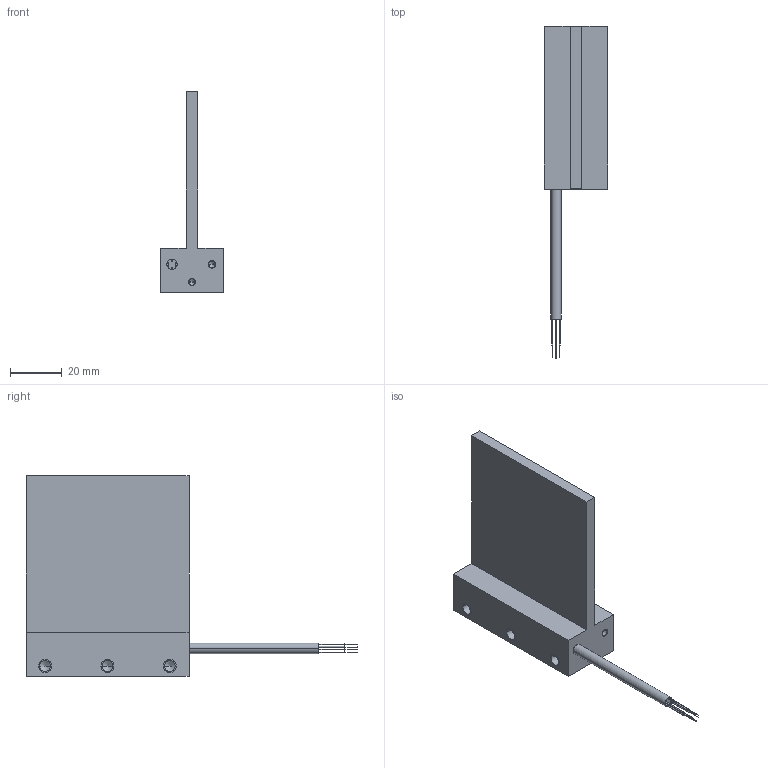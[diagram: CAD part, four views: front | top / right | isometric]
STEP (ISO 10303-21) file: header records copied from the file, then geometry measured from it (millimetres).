
FILE_DESCRIPTION((''),'2;1');
FILE_NAME('IL03-050','2006-04-05T',('saurabh.singhal'),('Kollmorgen'),'PRO/ENGINEER BY PARAMETRIC TECHNOLOGY CORPORATION, 2005310','PRO/ENGINEER BY PARAMETRIC TECHNOLOGY CORPORATION, 2005310','');
FILE_SCHEMA(('CONFIG_CONTROL_DESIGN'));
Length unit declared in the file: millimetre
Products named in the file (1): IL03-050
Bounding box: 24.4 x 127.7 x 77.3 mm (x, y, z)
Volume: 42467.6 mm3; surface area: 16598.6 mm2
Topology: 1 solids, 13 shells, 133 faces, 318 edges, 200 vertices
Faces by surface type: cylinder 74, plane 35, cone 24
Entity records: 3787 total; most frequent: DIRECTION 734, CARTESIAN_POINT 628, ORIENTED_EDGE 540, AXIS2_PLACEMENT_3D 306, EDGE_CURVE 294, VERTEX_POINT 200, CIRCLE 172, EDGE_LOOP 170
